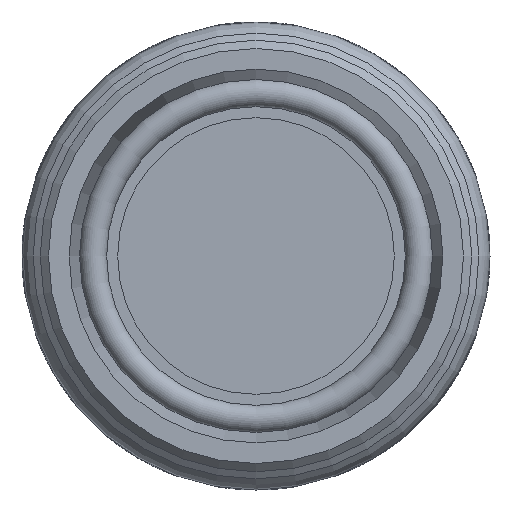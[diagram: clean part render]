
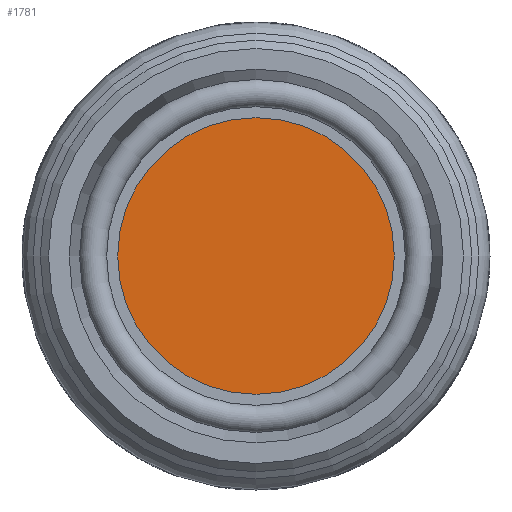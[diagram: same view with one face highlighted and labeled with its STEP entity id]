
A CAD part, front view. The second image highlights one B-rep face of the part: STEP entity #1781.
In plain terms, the highlighted planar face has unit normal (0, -1, 0).
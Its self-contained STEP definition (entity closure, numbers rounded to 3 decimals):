
#1765=CARTESIAN_POINT('',(15.966,6.319,-1.042));
#1766=DIRECTION('',(0.0,-1.0,0.0));
#1767=DIRECTION('',(-0.065,0.0,-0.998));
#1768=AXIS2_PLACEMENT_3D('',#1765,#1766,#1767);
#1769=PLANE('',#1768);
#1770=CARTESIAN_POINT('',(31.433,6.319,-2.051));
#1771=VERTEX_POINT('',#1770);
#1772=CARTESIAN_POINT('',(0.,6.319,0.));
#1773=DIRECTION('',(0.,1.,0.));
#1774=DIRECTION('',(-0.998,0.,0.065));
#1775=AXIS2_PLACEMENT_3D('',#1772,#1773,#1774);
#1776=CIRCLE('',#1775,31.5);
#1777=EDGE_CURVE('',#1771,#1771,#1776,.T.);
#1778=ORIENTED_EDGE('',*,*,#1777,.F.);
#1779=EDGE_LOOP('',(#1778));
#1780=FACE_OUTER_BOUND('',#1779,.T.);
#1781=ADVANCED_FACE('',(#1780),#1769,.T.);
